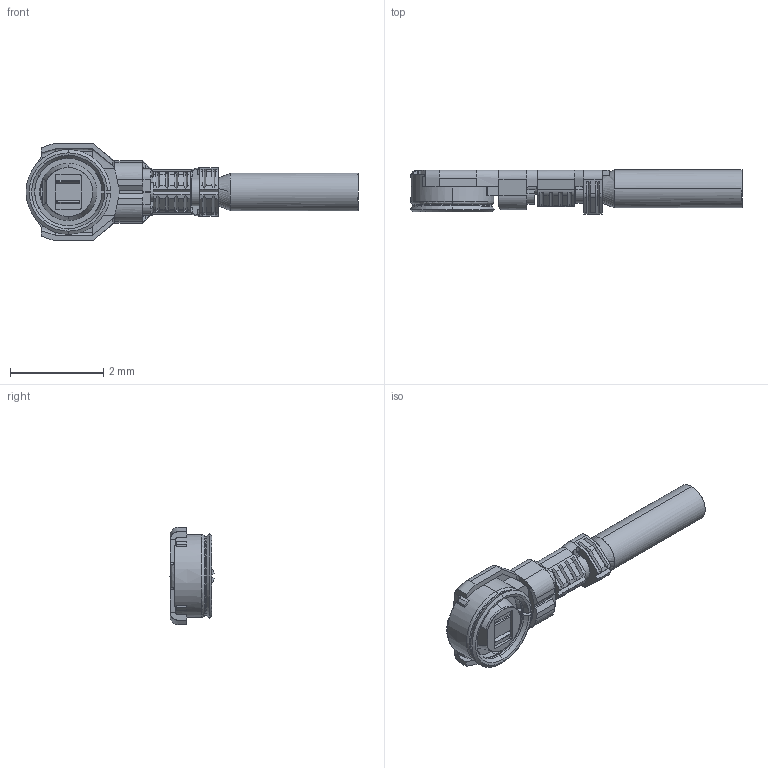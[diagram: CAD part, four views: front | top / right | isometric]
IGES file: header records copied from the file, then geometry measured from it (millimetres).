
Start section: SolidWorks IGES file using analytic representation for surfaces
Global section: file name: C:\3dwork\imaji\00.Web model check\00. New 3D\MHF 4L\20572-00xR-08C PLUG IGES R3 ALL.IGS; native system: SolidWorks 2017; preprocessor: SolidWorks 2017; author: ipxcad-013; date: 180427.170952; units: millimetre
Bounding box: 7.13 x 0.94 x 2.1 mm (x, y, z)
Surface area: 34.8 mm2 (no closed solid volume)
Topology: 0 solids, 0 shells, 358 faces, 2225 edges, 2221 vertices
Faces by surface type: bspline 247, revolution 111
